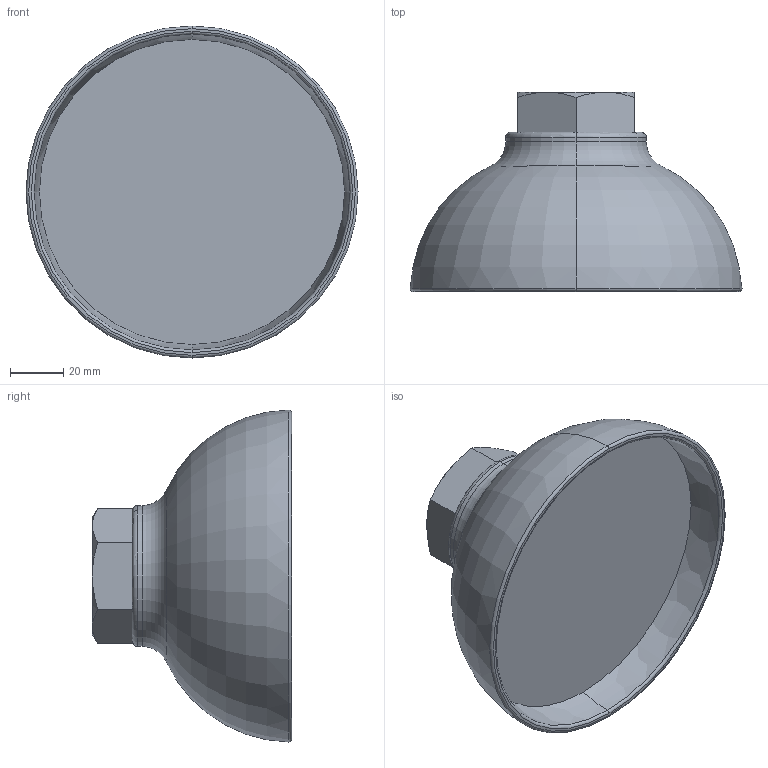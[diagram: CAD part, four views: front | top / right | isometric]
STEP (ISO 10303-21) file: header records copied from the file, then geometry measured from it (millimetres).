
FILE_DESCRIPTION (( 'STEP AP203' ), '1' );
FILE_NAME ('MS-2 25A.STEP', '2026-01-23T00:45:39', ( '' ), ( '' ), 'SwSTEP 2.0', 'SolidWorks 2024', '' );
FILE_SCHEMA (( 'CONFIG_CONTROL_DESIGN' ));
Length unit declared in the file: millimetre
Products named in the file (1): MS-2 25A
Bounding box: 124.98 x 75 x 124.98 mm (x, y, z)
Volume: 336174 mm3; surface area: 44125.3 mm2
Topology: 1 solids, 1 shells, 41 faces, 90 edges, 53 vertices
Faces by surface type: plane 16, torus 12, cone 11, cylinder 2
Entity records: 1292 total; most frequent: CARTESIAN_POINT 325, DIRECTION 197, ORIENTED_EDGE 180, EDGE_CURVE 90, AXIS2_PLACEMENT_3D 89, VERTEX_POINT 53, CIRCLE 47, EDGE_LOOP 43
